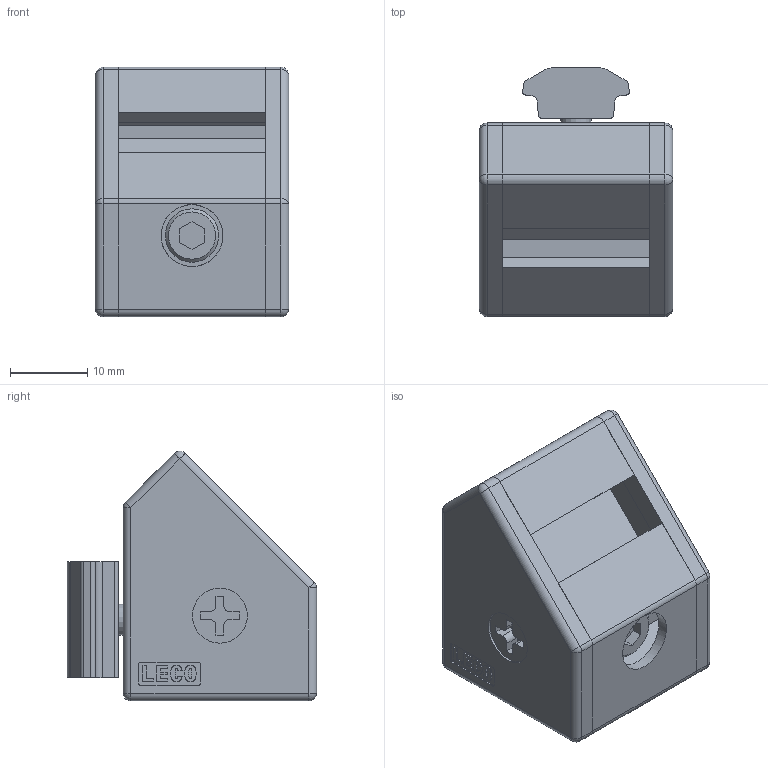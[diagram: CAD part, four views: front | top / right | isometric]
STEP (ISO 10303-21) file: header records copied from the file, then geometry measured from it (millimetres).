
FILE_DESCRIPTION(('STEP AP214'),'1');
FILE_NAME('PB24-L25.stp','2017-07-26T07:09:12',(' '),(' '),'Spatial InterOp 3D',' ',' ');
FILE_SCHEMA(('automotive_design'));
Length unit declared in the file: millimetre
Products named in the file (6): PB24-L25; ねじ: 穴付き - M4.0 x 25.0; E25P-L; E25P-R; NF40-M4
Assembly tree (5 placements, depth 2):
  PB24-L25
    PB24-L25
    ねじ: 穴付き - M4.0 x 25.0
    E25P-L
    E25P-R
    NF40-M4
Bounding box: 25 x 32.2 x 32.26 mm (x, y, z)
Volume: 9854.7 mm3; surface area: 10954.4 mm2
Topology: 5 solids, 5 shells, 382 faces, 1025 edges, 664 vertices
Faces by surface type: plane 221, cylinder 149, sphere 10, cone 2
Full cylindrical faces by diameter (mm): 4 x2, 4.5 x2, 6.9 x1, 7.1 x2, 8 x1
Entity records: 15058 total; most frequent: CARTESIAN_POINT 2163, DIRECTION 2047, ORIENTED_EDGE 2004, EDGE_CURVE 1002, LINE 701, VECTOR 701, AXIS2_PLACEMENT_3D 673, VERTEX_POINT 661
